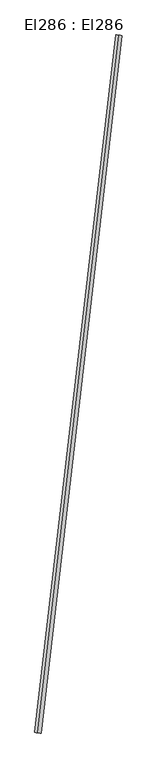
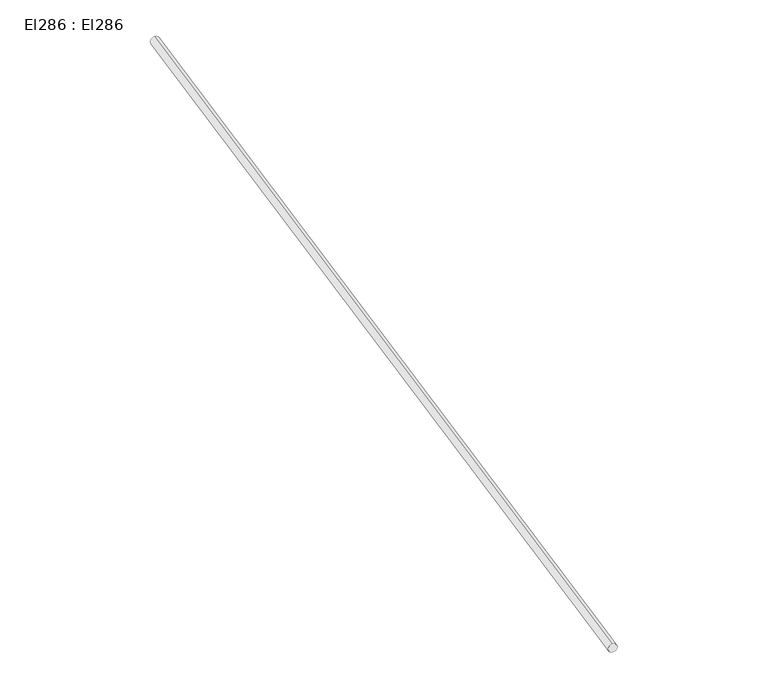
"""IFC4 building model written with IfcOpenShell, lengths in millimetres: cable carrier segment geometry, El286 : El286."""

from ifc_helpers import new_model, si_unit, point, frame, frame_2d, origin, place, context, project, spatial, circle_curve, trimmed, segment, composite_curve, outline, extrude, source, transform, mapped, element, save


def el286_el286_0be1dac5(model_context):
    return source(origin(), model_context, "Body", "SweptSolid", [
        extrude(outline(composite_curve([segment(trimmed(circle_curve(frame_2d((0.0, -12.0)), 12.0), [point((0.0, -24.0))], [point((0.0, 0.0))], False, "CARTESIAN"), True, "CONTINUOUS"), segment(trimmed(circle_curve(frame_2d((0.0, -12.0)), 12.0), [point((0.0, 0.0))], [point((0.0, -24.0))], False, "CARTESIAN"), True, "CONTINUOUS")], self_intersect=False)), frame((4253.0559239, 12055.8542196, 2962.0), z_axis=(0.1155999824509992, 0.9932958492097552, 0.0), x_axis=(-0.9932958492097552, 0.1155999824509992, 0.0)), (0.0, 0.0, 1.0), 2728.79),
    ])


if __name__ == "__main__":
    model = new_model("IFC4")
    model_context = context("Model", 3, world=origin())
    ifc_project = project(units=[si_unit("LENGTHUNIT", "METRE", prefix="MILLI")], contexts=[model_context])
    site = spatial("IfcSite", under=ifc_project)
    building = spatial("IfcBuilding", under=site)
    placement = place(None, origin())
    el286_el286_shape = el286_el286_0be1dac5(model_context)
    element("IfcCableCarrierSegment", 1, ObjectType="El286 : El286", at=placement, inside=building, context=model_context, shape_type="MappedRepresentation", body=[
        mapped(el286_el286_shape, transform((0.0, 0.0, 0.0), x_axis=(1.0, 0.0, 0.0), y_axis=(0.0, 1.0, 0.0), z_axis=(0.0, 0.0, 1.0))),
    ])
    save(model, "model.ifc")
